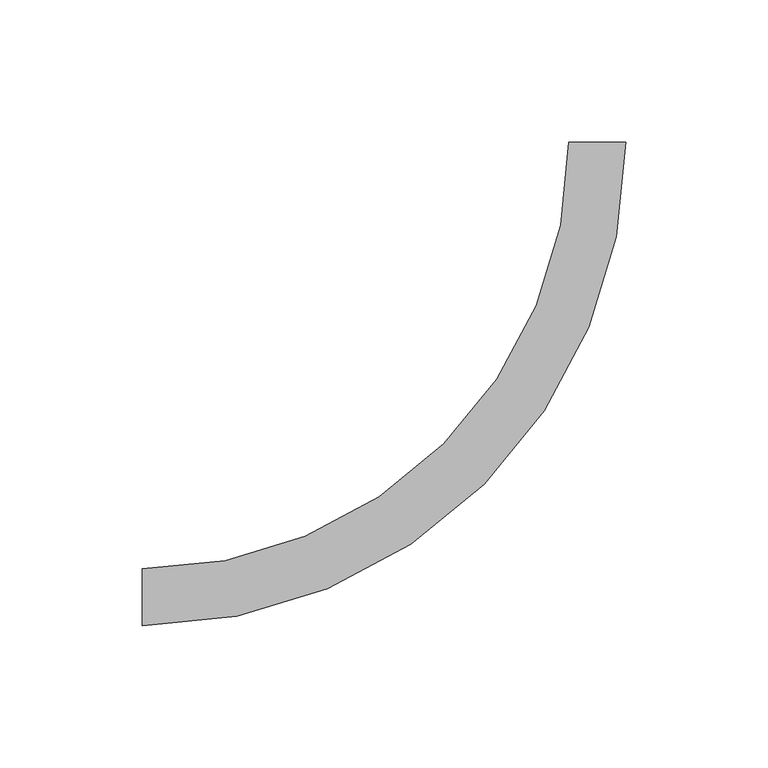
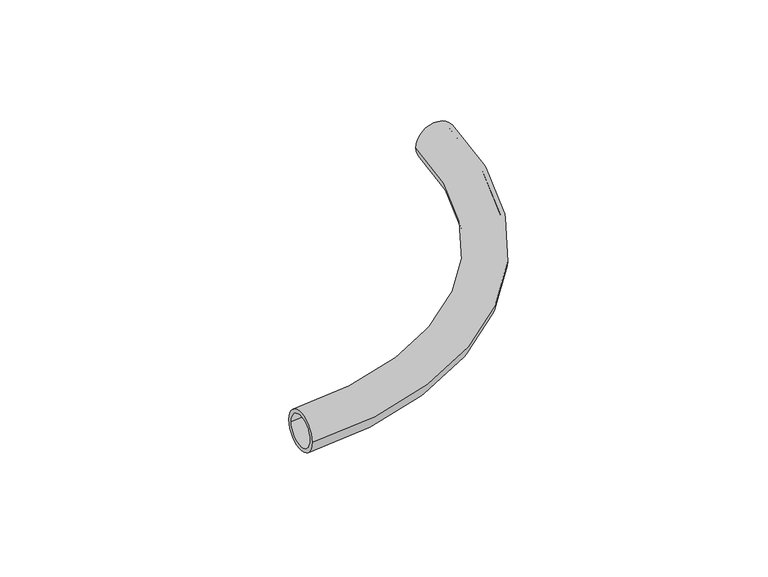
"""IFC4 building model written with IfcOpenShell, lengths in millimetres: pipe fitting geometry, FASTLOC_ML_bend : FSL ML AT."""

from ifc_helpers import new_model, si_unit, point, frame, origin, place, context, project, spatial, circle_curve, ellipse_curve, trimmed, source, transform, mapped, element, save
from ifc_brep_helpers import plane_surface, revolved_surface, advanced_brep


def pipe_fitting_39b045f9(model_context):
    return source(origin(), model_context, "Body", "AdvancedBrep", [
        advanced_brep(
        [(-160.0, -10.0, 0.0), (-160.0, 10.0, 0.0), (-160.0, -8.0, 0.0), (-160.0, 8.0, 0.0), (10.0, 160.0, 0.0), (-10.0, 160.0, 0.0), (8.0, 160.0, 0.0), (-8.0, 160.0, 0.0)],
        [
            (0, 1, circle_curve(frame((-160.0, 0.0, 0.0), z_axis=(-1.0, 0.0, 0.0), x_axis=(0.0, 1.0, 0.0)), 10.0)),
            (1, 0, circle_curve(frame((-160.0, 0.0, 0.0), z_axis=(-1.0, 0.0, 0.0), x_axis=(0.0, 1.0, 0.0)), 10.0)),
            (2, 3, circle_curve(frame((-160.0, 0.0, 0.0), z_axis=(1.0, 0.0, 0.0), x_axis=(0.0, 1.0, 0.0)), 8.0)),
            (3, 2, circle_curve(frame((-160.0, 0.0, 0.0), z_axis=(1.0, 0.0, 0.0), x_axis=(0.0, 1.0, 0.0)), 8.0)),
            (4, 5, circle_curve(frame((0.0, 160.0, 0.0), z_axis=(0.0, 1.0, 0.0), x_axis=(-1.0, 0.0, 0.0)), 10.0)),
            (5, 4, circle_curve(frame((0.0, 160.0, 0.0), z_axis=(0.0, 1.0, 0.0), x_axis=(-1.0, 0.0, 0.0)), 10.0)),
            (6, 7, circle_curve(frame((0.0, 160.0, 0.0), z_axis=(0.0, -1.0, 0.0), x_axis=(-1.0, 0.0, 0.0)), 8.0)),
            (7, 6, circle_curve(frame((0.0, 160.0, 0.0), z_axis=(0.0, -1.0, 0.0), x_axis=(-1.0, 0.0, 0.0)), 8.0)),
            (7, 3, circle_curve(frame((-160.0, 160.0, 0.0), z_axis=(0.0, 0.0, -1.0), x_axis=(0.0, -1.0, 0.0)), 152.0)),
            (2, 6, circle_curve(frame((-160.0, 160.0, 0.0), z_axis=(0.0, 0.0, 1.0), x_axis=(0.0, -1.0, 0.0)), 168.0)),
            (5, 1, circle_curve(frame((-160.0, 160.0, 0.0), z_axis=(0.0, 0.0, -1.0), x_axis=(0.0, -1.0, 0.0)), 150.0)),
            (0, 4, circle_curve(frame((-160.0, 160.0, 0.0), z_axis=(0.0, 0.0, 1.0), x_axis=(0.0, -1.0, 0.0)), 170.0)),
        ],
        [
            plane_surface(frame((-160.0, 0.0, 0.0), z_axis=(-1.0, 0.0, 0.0), x_axis=(0.0, 0.0, 1.0))),
            plane_surface(frame((0.0, 160.0, 0.0), z_axis=(0.0, 1.0, 0.0), x_axis=(0.0, 0.0, 1.0))),
            revolved_surface(trimmed(ellipse_curve(frame((-160.0, 0.0, 0.0), z_axis=(1.0, 0.0, 0.0), x_axis=(0.0, 1.0, 0.0)), 8.0, 8.0), [point((-160.0, -8.0, 0.0))], [point((-160.0, 8.0, 0.0))], True, "CARTESIAN"), (-160.0, 160.0, 0.0), (0.0, 0.0, 1.0)),
            revolved_surface(trimmed(ellipse_curve(frame((-160.0, 0.0, 0.0), z_axis=(1.0, 0.0, 0.0), x_axis=(0.0, 1.0, 0.0)), 8.0, 8.0), [point((-160.0, 8.0, 0.0))], [point((-160.0, -8.0, 0.0))], True, "CARTESIAN"), (-160.0, 160.0, 0.0), (0.0, 0.0, 1.0)),
            revolved_surface(trimmed(ellipse_curve(frame((-160.0, 0.0, 0.0), z_axis=(-1.0, 0.0, 0.0), x_axis=(0.0, 1.0, 0.0)), 10.0, 10.0), [point((-160.0, -10.0, 0.0))], [point((-160.0, 10.0, 0.0))], True, "CARTESIAN"), (-160.0, 160.0, 0.0), (0.0, 0.0, 1.0)),
            revolved_surface(trimmed(ellipse_curve(frame((-160.0, 0.0, 0.0), z_axis=(-1.0, 0.0, 0.0), x_axis=(0.0, 1.0, 0.0)), 10.0, 10.0), [point((-160.0, 10.0, 0.0))], [point((-160.0, -10.0, 0.0))], True, "CARTESIAN"), (-160.0, 160.0, 0.0), (0.0, 0.0, 1.0)),
        ],
        [
            (0, [[1, 2], [3, 4]]),
            (1, [[5, 6], [7, 8]]),
            (2, [[9, -3, 10, -8]]),
            (3, [[-10, -4, -9, -7]]),
            (4, [[11, -1, 12, -6]]),
            (5, [[-12, -2, -11, -5]]),
        ],
    ),
    ])


if __name__ == "__main__":
    model = new_model("IFC4")
    model_context = context("Model", 3, world=origin())
    ifc_project = project(units=[si_unit("LENGTHUNIT", "METRE", prefix="MILLI")], contexts=[model_context])
    site = spatial("IfcSite", under=ifc_project)
    building = spatial("IfcBuilding", under=site)
    placement = place(None, origin())
    pipe_fitting_shape = pipe_fitting_39b045f9(model_context)
    element("IfcPipeFitting", 1, ObjectType="FASTLOC_ML_bend : FSL ML AT", at=placement, inside=building, context=model_context, shape_type="MappedRepresentation", body=[
        mapped(pipe_fitting_shape, transform((0.0, 0.0, 0.0), x_axis=(1.0, 0.0, 0.0), y_axis=(0.0, 1.0, 0.0), z_axis=(0.0, 0.0, 1.0))),
    ])
    save(model, "model.ifc")
